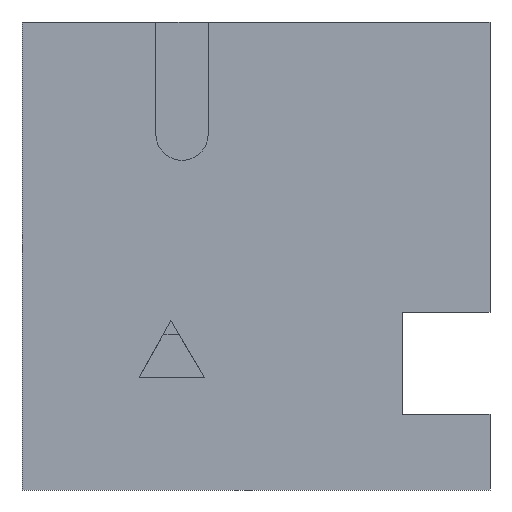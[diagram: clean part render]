
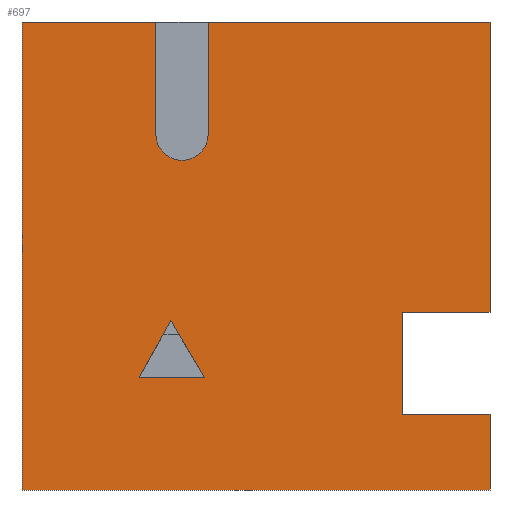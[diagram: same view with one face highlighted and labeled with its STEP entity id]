
A CAD part, front view. The second image highlights one B-rep face of the part: STEP entity #697.
In plain terms, the highlighted planar face has unit normal (0, -1, 0).
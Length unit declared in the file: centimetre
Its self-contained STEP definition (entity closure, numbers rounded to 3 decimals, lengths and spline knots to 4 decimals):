
#10 = EDGE_CURVE ( 'NONE', #160, #1225, #1011, .T. ) ;
#30 = DIRECTION ( 'NONE',  ( 0., 0., -1. ) ) ;
#31 = ORIENTED_EDGE ( 'NONE', *, *, #509, .T. ) ;
#32 = AXIS2_PLACEMENT_3D ( 'NONE', #271, #1218, #282 ) ;
#39 = DIRECTION ( 'NONE',  ( 0., 0., 1. ) ) ;
#54 = EDGE_LOOP ( 'NONE', ( #496, #31, #876, #1180, #802, #503, #1086, #1032, #1199, #883, #159, #571, #170 ) ) ;
#71 = DIRECTION ( 'NONE',  ( 1., 0., 0. ) ) ;
#89 = CARTESIAN_POINT ( 'NONE',  ( 1000., 0., 379.9901 ) ) ;
#94 = DIRECTION ( 'NONE',  ( 1., 0., 0. ) ) ;
#99 = DIRECTION ( 'NONE',  ( -0.507, 0., 0.862 ) ) ;
#135 = FACE_OUTER_BOUND ( 'NONE', #54, .T. ) ;
#143 = VERTEX_POINT ( 'NONE', #1350 ) ;
#147 = EDGE_CURVE ( 'NONE', #720, #592, #1245, .T. ) ;
#158 = DIRECTION ( 'NONE',  ( 0., 0., 1. ) ) ;
#159 = ORIENTED_EDGE ( 'NONE', *, *, #1100, .F. ) ;
#160 = VERTEX_POINT ( 'NONE', #815 ) ;
#167 = CARTESIAN_POINT ( 'NONE',  ( 812.9849, 0., 162.0857 ) ) ;
#170 = ORIENTED_EDGE ( 'NONE', *, *, #878, .T. ) ;
#180 = CARTESIAN_POINT ( 'NONE',  ( 318.0204, 0., 361.9642 ) ) ;
#181 = EDGE_CURVE ( 'NONE', #796, #985, #402, .T. ) ;
#193 = CARTESIAN_POINT ( 'NONE',  ( 1000., 0., 1000. ) ) ;
#201 = EDGE_CURVE ( 'NONE', #592, #985, #723, .T. ) ;
#202 = AXIS2_PLACEMENT_3D ( 'NONE', #1047, #710, #922 ) ;
#217 = VECTOR ( 'NONE', #1062, 100. ) ;
#229 = VECTOR ( 'NONE', #1320, 100. ) ;
#230 = CARTESIAN_POINT ( 'NONE',  ( 390.0108, 0., 239.6348 ) ) ;
#242 = LINE ( 'NONE', #1196, #1176 ) ;
#250 = VECTOR ( 'NONE', #30, 100. ) ;
#271 = CARTESIAN_POINT ( 'NONE',  ( 341.9142, 0., 760.1589 ) ) ;
#276 = EDGE_CURVE ( 'NONE', #1225, #644, #425, .T. ) ;
#278 = CARTESIAN_POINT ( 'NONE',  ( 286.1076, 0., 1000. ) ) ;
#282 = DIRECTION ( 'NONE',  ( 0., 0., 1. ) ) ;
#284 = CARTESIAN_POINT ( 'NONE',  ( 812.9849, 0., 379.9901 ) ) ;
#311 = VECTOR ( 'NONE', #313, 100. ) ;
#313 = DIRECTION ( 'NONE',  ( 0., 0., -1. ) ) ;
#340 = EDGE_CURVE ( 'NONE', #1105, #143, #532, .T. ) ;
#379 = DIRECTION ( 'NONE',  ( -1., 0., 0. ) ) ;
#387 = CARTESIAN_POINT ( 'NONE',  ( 0., 0., 1000. ) ) ;
#393 = EDGE_CURVE ( 'NONE', #467, #720, #242, .T. ) ;
#402 = LINE ( 'NONE', #284, #987 ) ;
#413 = CARTESIAN_POINT ( 'NONE',  ( 0., 0., 1000. ) ) ;
#414 = VECTOR ( 'NONE', #158, 100. ) ;
#425 = LINE ( 'NONE', #230, #1374 ) ;
#440 = PLANE ( 'NONE',  #1144 ) ;
#466 = CARTESIAN_POINT ( 'NONE',  ( 1000., 0., 1000. ) ) ;
#467 = VERTEX_POINT ( 'NONE', #1306 ) ;
#481 = ORIENTED_EDGE ( 'NONE', *, *, #276, .F. ) ;
#496 = ORIENTED_EDGE ( 'NONE', *, *, #689, .F. ) ;
#503 = ORIENTED_EDGE ( 'NONE', *, *, #147, .F. ) ;
#509 = EDGE_CURVE ( 'NONE', #680, #537, #918, .T. ) ;
#510 = DIRECTION ( 'NONE',  ( 1., 0., 0. ) ) ;
#517 = DIRECTION ( 'NONE',  ( 0., 0., -1. ) ) ;
#520 = DIRECTION ( 'NONE',  ( -0.485, 0., -0.874 ) ) ;
#532 = LINE ( 'NONE', #1072, #311 ) ;
#537 = VERTEX_POINT ( 'NONE', #167 ) ;
#557 = CARTESIAN_POINT ( 'NONE',  ( 0., 0., 1000. ) ) ;
#561 = VERTEX_POINT ( 'NONE', #1020 ) ;
#570 = EDGE_LOOP ( 'NONE', ( #1116, #670, #481 ) ) ;
#571 = ORIENTED_EDGE ( 'NONE', *, *, #1277, .T. ) ;
#592 = VERTEX_POINT ( 'NONE', #964 ) ;
#593 = CARTESIAN_POINT ( 'NONE',  ( 812.9849, 0., 162.0857 ) ) ;
#644 = VERTEX_POINT ( 'NONE', #750 ) ;
#648 = LINE ( 'NONE', #848, #217 ) ;
#670 = ORIENTED_EDGE ( 'NONE', *, *, #1098, .F. ) ;
#678 = LINE ( 'NONE', #466, #250 ) ;
#680 = VERTEX_POINT ( 'NONE', #1381 ) ;
#689 = EDGE_CURVE ( 'NONE', #680, #1123, #678, .T. ) ;
#695 = VERTEX_POINT ( 'NONE', #1302 ) ;
#697 = ADVANCED_FACE ( 'NONE', ( #1315, #135 ), #440, .F. ) ;
#698 = CARTESIAN_POINT ( 'NONE',  ( 0., 0., 0. ) ) ;
#707 = DIRECTION ( 'NONE',  ( 1., 0., 0. ) ) ;
#710 = DIRECTION ( 'NONE',  ( 0., -1., 0. ) ) ;
#718 = CARTESIAN_POINT ( 'NONE',  ( 1000., 0., 0. ) ) ;
#720 = VERTEX_POINT ( 'NONE', #1188 ) ;
#723 = LINE ( 'NONE', #193, #1007 ) ;
#727 = LINE ( 'NONE', #413, #735 ) ;
#735 = VECTOR ( 'NONE', #94, 100. ) ;
#750 = CARTESIAN_POINT ( 'NONE',  ( 318.0204, 0., 361.9642 ) ) ;
#763 = VECTOR ( 'NONE', #510, 100. ) ;
#796 = VERTEX_POINT ( 'NONE', #1073 ) ;
#802 = ORIENTED_EDGE ( 'NONE', *, *, #201, .F. ) ;
#815 = CARTESIAN_POINT ( 'NONE',  ( 250.1205, 0., 239.6348 ) ) ;
#848 = CARTESIAN_POINT ( 'NONE',  ( 0., 0., 1000. ) ) ;
#853 = EDGE_CURVE ( 'NONE', #561, #467, #1075, .T. ) ;
#856 = CARTESIAN_POINT ( 'NONE',  ( 390.0108, 0., 239.6348 ) ) ;
#871 = EDGE_CURVE ( 'NONE', #537, #796, #1014, .T. ) ;
#876 = ORIENTED_EDGE ( 'NONE', *, *, #871, .T. ) ;
#878 = EDGE_CURVE ( 'NONE', #695, #1123, #1131, .T. ) ;
#883 = ORIENTED_EDGE ( 'NONE', *, *, #340, .F. ) ;
#909 = LINE ( 'NONE', #180, #973 ) ;
#918 = LINE ( 'NONE', #593, #1013 ) ;
#922 = DIRECTION ( 'NONE',  ( 0., 0., 1. ) ) ;
#964 = CARTESIAN_POINT ( 'NONE',  ( 1000., 0., 1000. ) ) ;
#970 = CARTESIAN_POINT ( 'NONE',  ( 0., 0., 1000. ) ) ;
#973 = VECTOR ( 'NONE', #520, 100. ) ;
#985 = VERTEX_POINT ( 'NONE', #89 ) ;
#987 = VECTOR ( 'NONE', #707, 100. ) ;
#1006 = CARTESIAN_POINT ( 'NONE',  ( 812.9849, 0., 162.0857 ) ) ;
#1007 = VECTOR ( 'NONE', #517, 100. ) ;
#1011 = LINE ( 'NONE', #1346, #1321 ) ;
#1013 = VECTOR ( 'NONE', #379, 100. ) ;
#1014 = LINE ( 'NONE', #1006, #414 ) ;
#1020 = CARTESIAN_POINT ( 'NONE',  ( 341.9142, 0., 704.3524 ) ) ;
#1032 = ORIENTED_EDGE ( 'NONE', *, *, #853, .F. ) ;
#1047 = CARTESIAN_POINT ( 'NONE',  ( 341.9142, 0., 760.1589 ) ) ;
#1062 = DIRECTION ( 'NONE',  ( 0., 0., -1. ) ) ;
#1072 = CARTESIAN_POINT ( 'NONE',  ( 286.1076, 0., 760.1589 ) ) ;
#1073 = CARTESIAN_POINT ( 'NONE',  ( 812.9849, 0., 379.9901 ) ) ;
#1075 = CIRCLE ( 'NONE', #32, 55.8065 ) ;
#1082 = EDGE_CURVE ( 'NONE', #143, #561, #1223, .T. ) ;
#1086 = ORIENTED_EDGE ( 'NONE', *, *, #393, .F. ) ;
#1088 = DIRECTION ( 'NONE',  ( 0., 1., 0. ) ) ;
#1098 = EDGE_CURVE ( 'NONE', #644, #160, #909, .T. ) ;
#1100 = EDGE_CURVE ( 'NONE', #1317, #1105, #727, .T. ) ;
#1105 = VERTEX_POINT ( 'NONE', #278 ) ;
#1116 = ORIENTED_EDGE ( 'NONE', *, *, #10, .F. ) ;
#1123 = VERTEX_POINT ( 'NONE', #718 ) ;
#1131 = LINE ( 'NONE', #698, #229 ) ;
#1144 = AXIS2_PLACEMENT_3D ( 'NONE', #970, #1088, #1205 ) ;
#1176 = VECTOR ( 'NONE', #39, 100. ) ;
#1180 = ORIENTED_EDGE ( 'NONE', *, *, #181, .T. ) ;
#1188 = CARTESIAN_POINT ( 'NONE',  ( 397.7207, 0., 1000. ) ) ;
#1196 = CARTESIAN_POINT ( 'NONE',  ( 397.7207, 0., 1000. ) ) ;
#1199 = ORIENTED_EDGE ( 'NONE', *, *, #1082, .F. ) ;
#1205 = DIRECTION ( 'NONE',  ( 0., 0., 1. ) ) ;
#1218 = DIRECTION ( 'NONE',  ( 0., -1., 0. ) ) ;
#1223 = CIRCLE ( 'NONE', #202, 55.8065 ) ;
#1225 = VERTEX_POINT ( 'NONE', #856 ) ;
#1245 = LINE ( 'NONE', #387, #763 ) ;
#1277 = EDGE_CURVE ( 'NONE', #1317, #695, #648, .T. ) ;
#1302 = CARTESIAN_POINT ( 'NONE',  ( 0., 0., 0. ) ) ;
#1306 = CARTESIAN_POINT ( 'NONE',  ( 397.7207, 0., 760.1589 ) ) ;
#1315 = FACE_BOUND ( 'NONE', #570, .T. ) ;
#1317 = VERTEX_POINT ( 'NONE', #557 ) ;
#1320 = DIRECTION ( 'NONE',  ( 1., 0., 0. ) ) ;
#1321 = VECTOR ( 'NONE', #71, 100. ) ;
#1346 = CARTESIAN_POINT ( 'NONE',  ( 250.1205, 0., 239.6348 ) ) ;
#1350 = CARTESIAN_POINT ( 'NONE',  ( 286.1076, 0., 760.1589 ) ) ;
#1374 = VECTOR ( 'NONE', #99, 100. ) ;
#1381 = CARTESIAN_POINT ( 'NONE',  ( 1000., 0., 162.0857 ) ) ;
